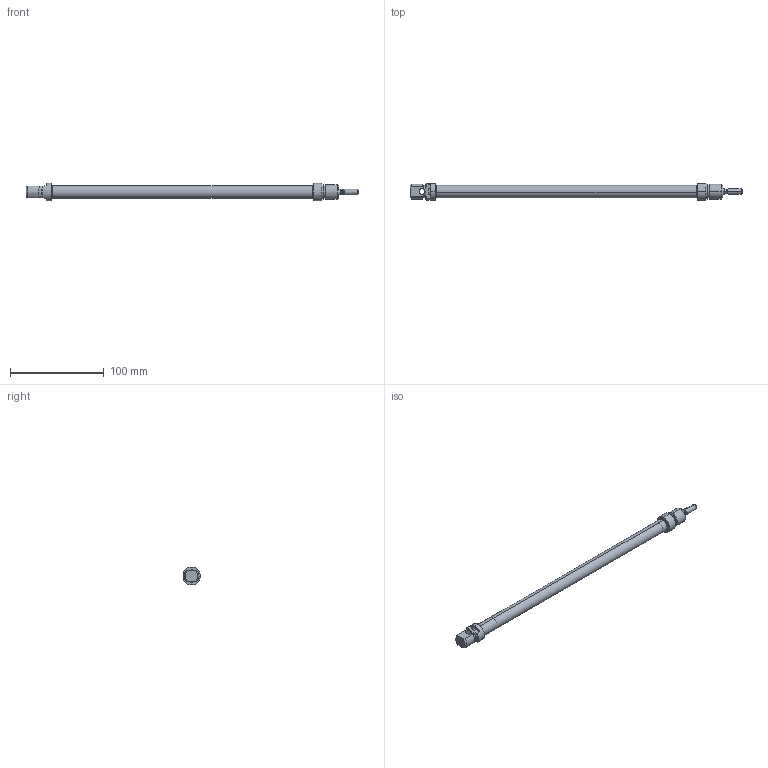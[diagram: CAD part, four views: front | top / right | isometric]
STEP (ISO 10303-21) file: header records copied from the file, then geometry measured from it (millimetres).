
FILE_DESCRIPTION (( 'STEP AP203' ), '1' );
FILE_NAME ('MF0120250A.step', '2012-10-17T16:32:37', ( '' ), ( '' ), 'SwSTEP 2.0', 'SolidWorks 2012', '' );
FILE_SCHEMA (( 'CONFIG_CONTROL_DESIGN' ));
Length unit declared in the file: millimetre
Products named in the file (1): MF0120250A
Bounding box: 354.5 x 18 x 19 mm (x, y, z)
Volume: 28805.6 mm3; surface area: 30359.3 mm2
Topology: 1 solids, 2 shells, 115 faces, 267 edges, 170 vertices
Faces by surface type: cylinder 46, plane 36, cone 29, torus 4
Entity records: 3516 total; most frequent: CARTESIAN_POINT 725, DIRECTION 613, ORIENTED_EDGE 534, EDGE_CURVE 267, AXIS2_PLACEMENT_3D 248, VERTEX_POINT 170, EDGE_LOOP 133, CIRCLE 132
